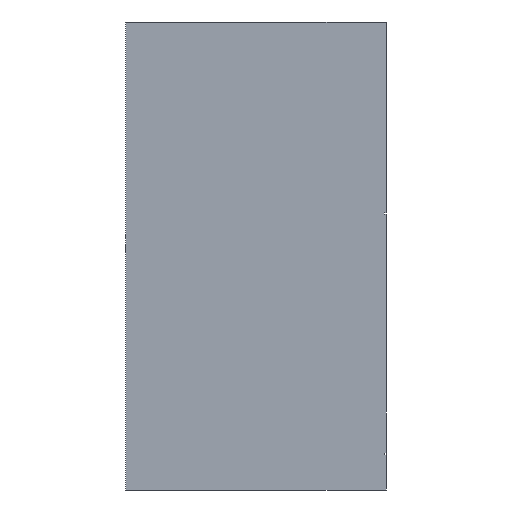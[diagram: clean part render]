
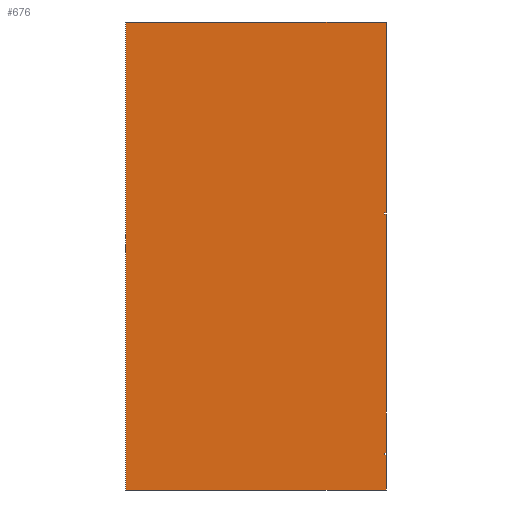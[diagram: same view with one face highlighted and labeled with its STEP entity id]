
A CAD part, left-side view. The second image highlights one B-rep face of the part: STEP entity #676.
In plain terms, the highlighted planar face has unit normal (-1, 0, 0).
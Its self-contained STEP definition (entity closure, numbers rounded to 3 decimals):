
#50=FACE_OUTER_BOUND('',#77,.T.);
#77=EDGE_LOOP('',(#600,#601,#602,#603,#604,#605,#606,#607,#608,#609,#610,
#611));
#211=VERTEX_POINT('',#1750);
#213=VERTEX_POINT('',#1754);
#215=VERTEX_POINT('',#1759);
#216=VERTEX_POINT('',#1764);
#219=VERTEX_POINT('',#1771);
#221=VERTEX_POINT('',#1775);
#223=VERTEX_POINT('',#1780);
#224=VERTEX_POINT('',#1785);
#226=VERTEX_POINT('',#1794);
#229=VERTEX_POINT('',#1801);
#231=VERTEX_POINT('',#1808);
#233=VERTEX_POINT('',#1814);
#372=EDGE_CURVE('',#211,#213,#903,.T.);
#375=EDGE_CURVE('',#215,#211,#906,.T.);
#376=EDGE_CURVE('',#216,#215,#907,.T.);
#382=EDGE_CURVE('',#219,#221,#913,.T.);
#385=EDGE_CURVE('',#223,#219,#916,.T.);
#386=EDGE_CURVE('',#224,#223,#917,.T.);
#390=EDGE_CURVE('',#221,#216,#921,.T.);
#392=EDGE_CURVE('',#213,#226,#923,.T.);
#396=EDGE_CURVE('',#229,#224,#927,.T.);
#398=EDGE_CURVE('',#231,#229,#929,.T.);
#402=EDGE_CURVE('',#226,#233,#933,.T.);
#404=EDGE_CURVE('',#233,#231,#935,.T.);
#600=ORIENTED_EDGE('',*,*,#398,.T.);
#601=ORIENTED_EDGE('',*,*,#396,.T.);
#602=ORIENTED_EDGE('',*,*,#386,.T.);
#603=ORIENTED_EDGE('',*,*,#385,.T.);
#604=ORIENTED_EDGE('',*,*,#382,.T.);
#605=ORIENTED_EDGE('',*,*,#390,.T.);
#606=ORIENTED_EDGE('',*,*,#376,.T.);
#607=ORIENTED_EDGE('',*,*,#375,.T.);
#608=ORIENTED_EDGE('',*,*,#372,.T.);
#609=ORIENTED_EDGE('',*,*,#392,.T.);
#610=ORIENTED_EDGE('',*,*,#402,.T.);
#611=ORIENTED_EDGE('',*,*,#404,.T.);
#649=PLANE('',#1153);
#676=ADVANCED_FACE('',(#50),#649,.T.);
#903=LINE('',#1756,#1094);
#906=LINE('',#1762,#1097);
#907=LINE('',#1765,#1098);
#913=LINE('',#1777,#1104);
#916=LINE('',#1783,#1107);
#917=LINE('',#1786,#1108);
#921=LINE('',#1792,#1112);
#923=LINE('',#1797,#1114);
#927=LINE('',#1804,#1118);
#929=LINE('',#1809,#1120);
#933=LINE('',#1816,#1124);
#935=LINE('',#1819,#1126);
#1094=VECTOR('',#1345,10.);
#1097=VECTOR('',#1350,10.);
#1098=VECTOR('',#1353,10.);
#1104=VECTOR('',#1361,10.);
#1107=VECTOR('',#1366,10.);
#1108=VECTOR('',#1369,10.);
#1112=VECTOR('',#1375,1490.);
#1114=VECTOR('',#1379,1190.);
#1118=VECTOR('',#1385,220.);
#1120=VECTOR('',#1389,1625.);
#1124=VECTOR('',#1395,1625.);
#1126=VECTOR('',#1399,2920.);
#1153=AXIS2_PLACEMENT_3D('',#1820,#1400,#1401);
#1345=DIRECTION('',(0.,-1.,0.));
#1350=DIRECTION('',(0.,0.,1.));
#1353=DIRECTION('',(0.,1.,0.));
#1361=DIRECTION('',(0.,-1.,0.));
#1366=DIRECTION('',(0.,0.,1.));
#1369=DIRECTION('',(0.,1.,0.));
#1375=DIRECTION('',(0.,0.,1.));
#1379=DIRECTION('',(0.,0.,1.));
#1385=DIRECTION('',(0.,0.,1.));
#1389=DIRECTION('',(0.,-1.,0.));
#1395=DIRECTION('',(0.,1.,0.));
#1399=DIRECTION('',(0.,0.,-1.));
#1400=DIRECTION('center_axis',(-1.,0.,0.));
#1401=DIRECTION('ref_axis',(0.,0.,-1.));
#1750=CARTESIAN_POINT('',(0.,-1615.,1730.));
#1754=CARTESIAN_POINT('',(0.,-1625.,1730.));
#1756=CARTESIAN_POINT('',(0.,-1615.,1730.));
#1759=CARTESIAN_POINT('',(0.,-1615.,1720.));
#1762=CARTESIAN_POINT('',(0.,-1615.,1720.));
#1764=CARTESIAN_POINT('',(0.,-1625.,1720.));
#1765=CARTESIAN_POINT('',(0.,-1625.,1720.));
#1771=CARTESIAN_POINT('',(0.,-1615.,230.));
#1775=CARTESIAN_POINT('',(0.,-1625.,230.));
#1777=CARTESIAN_POINT('',(0.,-1615.,230.));
#1780=CARTESIAN_POINT('',(0.,-1615.,220.));
#1783=CARTESIAN_POINT('',(0.,-1615.,220.));
#1785=CARTESIAN_POINT('',(0.,-1625.,220.));
#1786=CARTESIAN_POINT('',(0.,-1625.,220.));
#1792=CARTESIAN_POINT('',(0.,-1625.,230.));
#1794=CARTESIAN_POINT('',(0.,-1625.,2920.));
#1797=CARTESIAN_POINT('',(0.,-1625.,1730.));
#1801=CARTESIAN_POINT('',(0.,-1625.,0.));
#1804=CARTESIAN_POINT('',(0.,-1625.,0.));
#1808=CARTESIAN_POINT('',(0.,0.,0.));
#1809=CARTESIAN_POINT('',(0.,0.,0.));
#1814=CARTESIAN_POINT('',(0.,0.,2920.));
#1816=CARTESIAN_POINT('',(0.,-1625.,2920.));
#1819=CARTESIAN_POINT('',(0.,0.,2920.));
#1820=CARTESIAN_POINT('Origin',(0.,0.,0.));
